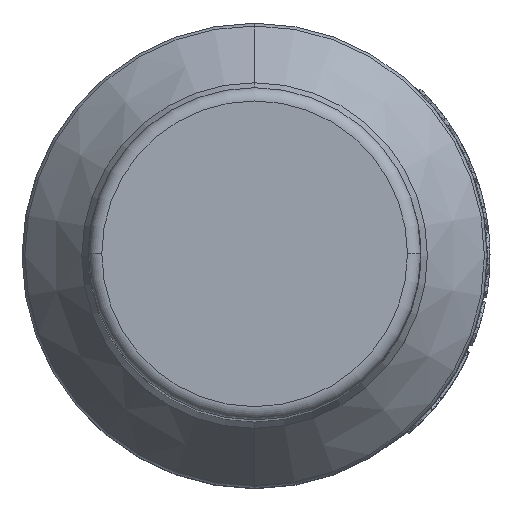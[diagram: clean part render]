
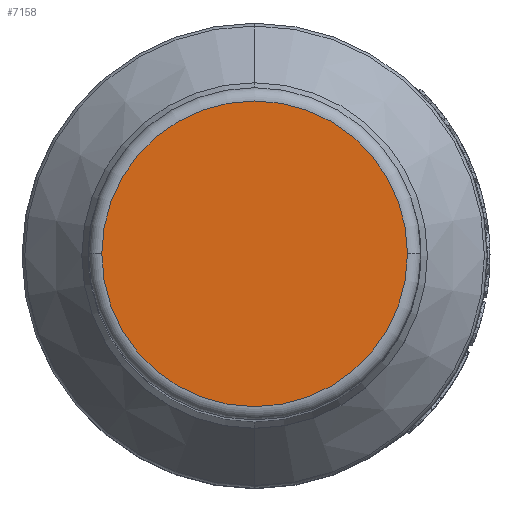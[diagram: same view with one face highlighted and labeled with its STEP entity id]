
A CAD part, top view. The second image highlights one B-rep face of the part: STEP entity #7158.
In plain terms, the highlighted planar face has unit normal (0, 0, 1).
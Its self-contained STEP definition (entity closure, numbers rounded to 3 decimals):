
#1=CARTESIAN_POINT('',(0.,0.,37.));
#2=DIRECTION('',(0.,0.,1.));
#3=DIRECTION('',(-1.,0.,0.));
#4=AXIS2_PLACEMENT_3D('',#1,#2,#3);
#6=CARTESIAN_POINT('',(0.,0.,37.));
#7=DIRECTION('',(0.,0.,1.));
#8=DIRECTION('',(1.,0.,0.));
#9=AXIS2_PLACEMENT_3D('',#6,#7,#8);
#6113=CARTESIAN_POINT('',(-11.5,0.,37.));
#6114=CARTESIAN_POINT('',(11.5,0.,37.));
#6115=VERTEX_POINT('',#6113);
#6116=VERTEX_POINT('',#6114);
#7147=CARTESIAN_POINT('',(0.,0.,37.));
#7148=DIRECTION('',(0.,0.,1.));
#7149=DIRECTION('',(1.,0.,0.));
#7150=AXIS2_PLACEMENT_3D('',#7147,#7148,#7149);
#7151=PLANE('',#7150);
#7153=ORIENTED_EDGE('',*,*,#7152,.F.);
#7155=ORIENTED_EDGE('',*,*,#7154,.F.);
#7156=EDGE_LOOP('',(#7153,#7155));
#7157=FACE_OUTER_BOUND('',#7156,.F.);
#7158=ADVANCED_FACE('',(#7157),#7151,.T.);
#5=CIRCLE('',#4,11.5);
#10=CIRCLE('',#9,11.5);
#7152=EDGE_CURVE('',#6115,#6116,#5,.T.);
#7154=EDGE_CURVE('',#6116,#6115,#10,.T.);
